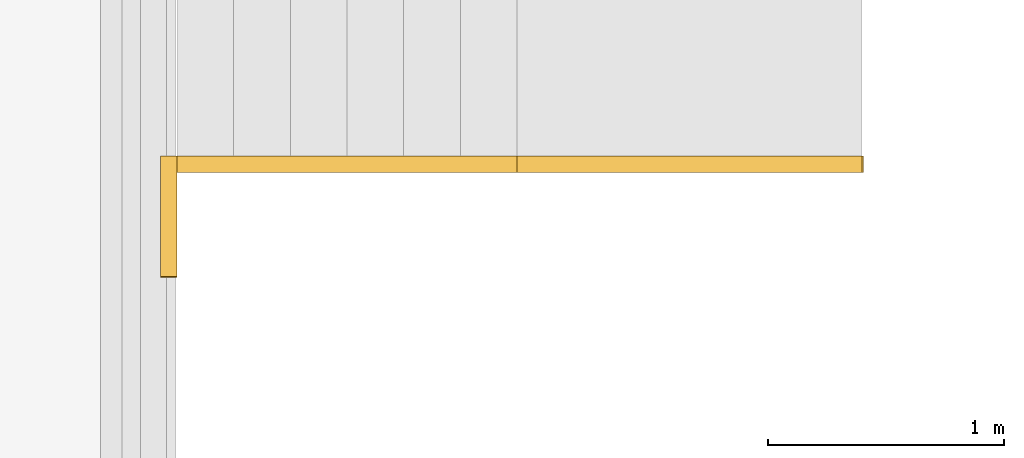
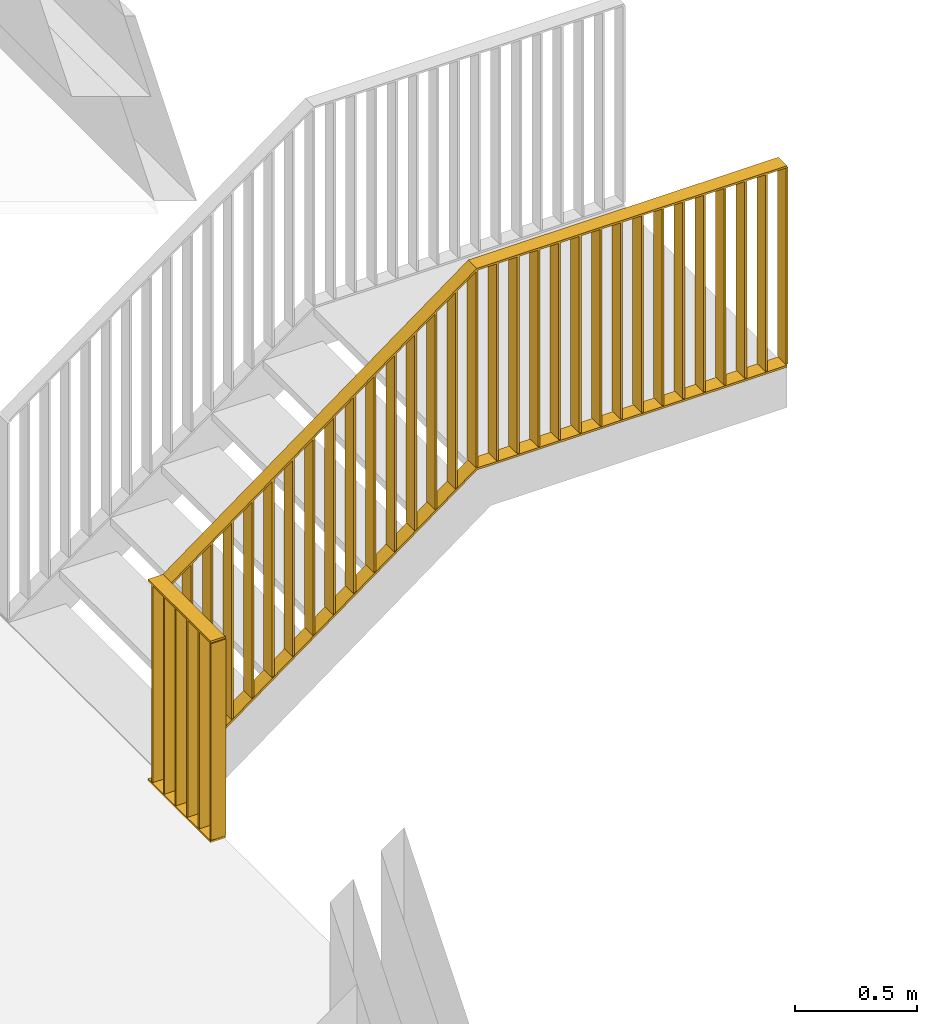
# One storey, part 47 of 54: 1 railing.
"""IFC2X3 building model written with IfcOpenShell, lengths in millimetres."""

import ifcopenshell
import ifcopenshell.guid

model = None  # the IFC model being written
_history = None  # IfcOwnerHistory: only IFC2X3 demands one
_inside = {}  # id of a spatial element -> (the spatial element, [elements in it])
_under = {}  # id of a project, library or spatial element -> (it, [spatial elements below it])
_declared = {}  # id of a project -> (the project, [libraries it declares])
_typed = {}  # id of a type object -> (the type object, [elements of that type])
_made_of = {}  # id of a material, layer set ... -> (it, [elements and type objects made of it])


def new_model(schema):
    """Start an empty IFC model of exactly this schema.

    Asked for "IFC4X3", IfcOpenShell would pick the latest addendum, in which some entities
    have other attributes; the version numbers below select the first issue.
    IFC2X3 requires an IfcOwnerHistory on every rooted entity: one is made here for all.
    """
    global model, _history
    if schema == "IFC4X3":
        model = ifcopenshell.file(schema_version=(4, 3, 0, 0))
    else:
        model = ifcopenshell.file(schema=schema)
    _inside.clear()
    _under.clear()
    _declared.clear()
    _typed.clear()
    _made_of.clear()
    _history = None
    if model.schema == "IFC2X3":
        org = make("IfcOrganization", Name="unknown")
        user = make(
            "IfcPersonAndOrganization",
            ThePerson=make("IfcPerson", FamilyName="unknown"),
            TheOrganization=org,
        )
        app = make(
            "IfcApplication",
            ApplicationDeveloper=org,
            Version="unknown",
            ApplicationFullName="unknown",
            ApplicationIdentifier="unknown",
        )
        _history = make(
            "IfcOwnerHistory",
            OwningUser=user,
            OwningApplication=app,
            ChangeAction="ADDED",
            CreationDate=0,
        )
    return model


def make(cls, **values):
    """One entity of the class cls with the attributes given. An attribute that is None is left unset."""
    return model.create_entity(
        cls, **{name: value for name, value in values.items() if value is not None}
    )


def entity(cls, *values):
    """Any entity or typed value of the class cls, its attributes in the order of the schema. None: left unset."""
    e = model.create_entity(cls)
    for i, value in enumerate(values):
        if value is not None:
            e[i] = value
    return e


def rooted(cls, **values):
    """An entity with a GlobalId (a new one), such as an element, a storey or a relation."""
    return make(cls, GlobalId=ifcopenshell.guid.new(), OwnerHistory=_history, **values)


def si_unit(unit_type, name, prefix=None):
    """IfcSIUnit, for example si_unit("LENGTHUNIT", "METRE", prefix="MILLI")."""
    return make("IfcSIUnit", UnitType=unit_type, Prefix=prefix, Name=name)


def converted_unit(unit_type, name, factor, base, dimensions=None, offset=None):
    """IfcConversionBasedUnit, such as the inch: factor (a typed value) times the base unit."""
    return make(
        "IfcConversionBasedUnit"
        if offset is None
        else "IfcConversionBasedUnitWithOffset",
        ConversionOffset=offset,
        Dimensions=None
        if dimensions is None
        else entity("IfcDimensionalExponents", *dimensions),
        UnitType=unit_type,
        Name=name,
        ConversionFactor=make(
            "IfcMeasureWithUnit", ValueComponent=factor, UnitComponent=base
        ),
    )


def derived_unit(unit_type, elements):
    """IfcDerivedUnit: a product of units, each with its exponent."""
    return make(
        "IfcDerivedUnit",
        Elements=[
            make("IfcDerivedUnitElement", Unit=unit, Exponent=power)
            for unit, power in elements
        ],
        UnitType=unit_type,
    )


def money_unit(currency):
    """IfcMonetaryUnit."""
    return make("IfcMonetaryUnit", Currency=currency)


def assignment(units):
    """IfcUnitAssignment: the units of a project."""
    return None if units is None else make("IfcUnitAssignment", Units=units)


def point(xyz):
    """IfcCartesianPoint."""
    return None if xyz is None else make("IfcCartesianPoint", Coordinates=xyz)


def direction(xyz):
    """IfcDirection."""
    return None if xyz is None else make("IfcDirection", DirectionRatios=xyz)


def frame(location, z_axis=None, x_axis=None):
    """IfcAxis2Placement3D, a coordinate frame: its origin and axes. An axis left out is left unset."""
    return make(
        "IfcAxis2Placement3D",
        Location=point(location),
        Axis=direction(z_axis),
        RefDirection=direction(x_axis),
    )


def origin_with_axes():
    """The frame at (0, 0, 0) with the z axis (0, 0, 1) and the x axis (1, 0, 0) written out."""
    return frame((0.0, 0.0, 0.0), z_axis=(0.0, 0.0, 1.0), x_axis=(1.0, 0.0, 0.0))


def place(relative_to, where):
    """IfcLocalPlacement: puts the frame where relative to a parent placement (None: the world)."""
    return make(
        "IfcLocalPlacement", PlacementRelTo=relative_to, RelativePlacement=where
    )


def context(
    kind, dimensions, precision=None, world=None, true_north=None, identifier=None
):
    """IfcGeometricRepresentationContext, for example the 3D "Model" context."""
    return make(
        "IfcGeometricRepresentationContext",
        ContextIdentifier=identifier,
        ContextType=kind,
        CoordinateSpaceDimension=dimensions,
        Precision=precision,
        WorldCoordinateSystem=world,
        TrueNorth=true_north,
    )


def subcontext(parent, identifier, kind, view, scale=None):
    """IfcGeometricRepresentationSubContext, for example "Body" below "Model"."""
    return make(
        "IfcGeometricRepresentationSubContext",
        ContextIdentifier=identifier,
        ContextType=kind,
        ParentContext=parent,
        TargetScale=scale,
        TargetView=view,
    )


def project(units=None, contexts=None):
    """IfcProject with its units and contexts."""
    return rooted(
        "IfcProject",
        Name="project",
        RepresentationContexts=contexts,
        UnitsInContext=assignment(units),
    )


def spatial(cls, under=None, at=None, **own):
    """A site, building, storey or space (cls), placed at a placement, below another one or the project."""
    s = rooted(cls, ObjectPlacement=at, **own)
    if under is not None:
        _under.setdefault(under.id(), (under, []))[1].append(s)
    return s


def faces_of(points, faces, orient=None, outer=None):
    """IfcFace entities. A face is a list of loops; a loop is a list of indices into points, from 0.

    orient and outer hold one flag for each loop. By default every Orientation is true, the
    first loop of a face is its IfcFaceOuterBound and the others are IfcFaceBound.
    """
    made = []
    for i, loops in enumerate(faces):
        bounds = []
        for j, loop in enumerate(loops):
            is_outer = j == 0 if outer is None else outer[i][j]
            bounds.append(
                make(
                    "IfcFaceOuterBound" if is_outer else "IfcFaceBound",
                    Bound=make("IfcPolyLoop", Polygon=[points[k] for k in loop]),
                    Orientation=True if orient is None else orient[i][j],
                )
            )
        made.append(make("IfcFace", Bounds=bounds))
    return made


def faceted_brep(points, faces, orient=None, outer=None, voids=None):
    """IfcFacetedBrep: a solid bounded by flat faces; with voids (closed shells), ...WithVoids."""
    shared = [point(p) for p in points]
    hull = make("IfcClosedShell", CfsFaces=faces_of(shared, faces, orient, outer))
    if voids is None:
        return make("IfcFacetedBrep", Outer=hull)
    return make(
        "IfcFacetedBrepWithVoids",
        Outer=hull,
        Voids=[
            make(cls, CfsFaces=faces_of(shared, fs, o, b)) for cls, fs, o, b in voids
        ],
    )


def shape(context_of_items, identifier, shape_type, items):
    """IfcShapeRepresentation: the items that make up one representation, for example the "Body"."""
    return make(
        "IfcShapeRepresentation",
        ContextOfItems=context_of_items,
        RepresentationIdentifier=identifier,
        RepresentationType=shape_type,
        Items=items,
    )


def material(Name=None, Category=None):
    """IfcMaterial."""
    return make("IfcMaterial", Name=Name, Category=Category)


def material_list(materials):
    """IfcMaterialList."""
    return make("IfcMaterialList", Materials=materials)


def made_of(thing, what):
    """Note that an element or type object is made of a material, layer set ...; save() writes the relation."""
    if what is not None:
        _made_of.setdefault(what.id(), (what, []))[1].append(thing)
    return thing


def type_object(cls, material=None, **own):
    """A type object (cls), such as IfcWallType, which elements share."""
    return made_of(rooted(cls, **own), material)


def element(
    cls,
    number,
    at=None,
    inside=None,
    cuts=None,
    type_object=None,
    material=None,
    context=None,
    identifier="Body",
    shape_type=None,
    held_by="IfcProductDefinitionShape",
    body=None,
    shapes=None,
    **own,
):
    """One element of the class cls, such as IfcWall. Its Tag is "e" and its number.

    at: its placement. inside: the storey or other place that contains it. cuts: it is an
    opening in that element (IfcRelVoidsElement). A single representation is given by context,
    identifier, shape_type and body (its items); several are given by shapes. held_by: the class
    of the entity that holds the representations. save() writes the other relations.
    """
    e = rooted(cls, Tag="e%d" % number, ObjectPlacement=at, **own)
    if body is not None:
        shapes = [shape(context, identifier, shape_type, body)]
    if shapes is not None:
        e.Representation = make(held_by, Representations=shapes)
    if inside is not None:
        _inside.setdefault(inside.id(), (inside, []))[1].append(e)
    if cuts is not None:
        rooted(
            "IfcRelVoidsElement", RelatingBuildingElement=cuts, RelatedOpeningElement=e
        )
    if type_object is not None:
        _typed.setdefault(type_object.id(), (type_object, []))[1].append(e)
    return made_of(e, material)


def aggregate(whole, parts):
    """IfcRelAggregates: a whole, such as a stair, and the parts it consists of."""
    return rooted("IfcRelAggregates", RelatingObject=whole, RelatedObjects=parts)


def save(model, path):
    """Write the relations noted so far, then the file.

    IfcRelAggregates (storeys below a building ...), IfcRelContainedInSpatialStructure (elements
    in a storey), IfcRelDefinesByType, IfcRelAssociatesMaterial and IfcRelDeclares: one each for
    every whole, place, type object, material and project.
    """
    for whole, parts in _under.values():
        aggregate(whole, parts)
    for where, things in _inside.values():
        rooted(
            "IfcRelContainedInSpatialStructure",
            RelatedElements=things,
            RelatingStructure=where,
        )
    for kind, things in _typed.values():
        rooted("IfcRelDefinesByType", RelatedObjects=things, RelatingType=kind)
    for what, things in _made_of.values():
        rooted("IfcRelAssociatesMaterial", RelatedObjects=things, RelatingMaterial=what)
    for by, libraries in _declared.values():
        rooted("IfcRelDeclares", RelatingContext=by, RelatedDefinitions=libraries)
    model.write(path)


model = new_model("IFC2X3")

# Units and contexts
model_context = context("Model", 3, precision=0.01, world=origin_with_axes(), true_north=direction((0.0, 1.0)))
body_context = subcontext(model_context, "Body", "Model", "MODEL_VIEW")
ifc_project = project(units=[si_unit("LENGTHUNIT", "METRE", prefix="MILLI"), si_unit("AREAUNIT", "SQUARE_METRE"), si_unit("VOLUMEUNIT", "CUBIC_METRE"), converted_unit("PLANEANGLEUNIT", "DEGREE", entity("IfcPlaneAngleMeasure", 0.0174532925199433), si_unit("PLANEANGLEUNIT", "RADIAN"), dimensions=[0, 0, 0, 0, 0, 0, 0]), money_unit("EUR"), converted_unit("TIMEUNIT", "Year", entity("IfcTimeMeasure", 31557600.0), si_unit("TIMEUNIT", "SECOND"), dimensions=[0, 0, 1, 0, 0, 0, 0]), si_unit("MASSUNIT", "GRAM", prefix="KILO"), si_unit("THERMODYNAMICTEMPERATUREUNIT", "DEGREE_CELSIUS"), si_unit("LUMINOUSINTENSITYUNIT", "LUMEN"), si_unit("ENERGYUNIT", "JOULE", prefix="MEGA"), derived_unit("THERMALCONDUCTANCEUNIT", [(si_unit("POWERUNIT", "WATT"), 1), (si_unit("LENGTHUNIT", "METRE"), -1), (si_unit("THERMODYNAMICTEMPERATUREUNIT", "KELVIN"), -1)]), derived_unit("SPECIFICHEATCAPACITYUNIT", [(si_unit("ENERGYUNIT", "JOULE"), 1), (si_unit("MASSUNIT", "GRAM", prefix="KILO"), -1), (si_unit("THERMODYNAMICTEMPERATUREUNIT", "KELVIN"), -1)]), derived_unit("MASSDENSITYUNIT", [(si_unit("MASSUNIT", "GRAM", prefix="KILO"), 1), (si_unit("VOLUMEUNIT", "CUBIC_METRE"), -1)])], contexts=[model_context])

# Site, building, storey
site_placement = place(None, origin_with_axes())
site = spatial("IfcSite", under=ifc_project, at=site_placement, Name="<site naam>", CompositionType="ELEMENT")
building_placement = place(site_placement, origin_with_axes())
building = spatial("IfcBuilding", under=site, at=building_placement, Name="<Naam gebouw>", CompositionType="ELEMENT")
storey_placement = place(building_placement, frame((0.0, 0.0, 8500.0), z_axis=(0.0, 0.0, 1.0), x_axis=(1.0, 0.0, 0.0)))
storey = spatial("IfcBuildingStorey", under=building, at=storey_placement, Name="02 2e verdieping", CompositionType="ELEMENT", Elevation=8500.0)

# Railing
ifc_material = material(Name="staal balustrade")
ifc_material_list = material_list([ifc_material, ifc_material, ifc_material, ifc_material, ifc_material, ifc_material, ifc_material, ifc_material, ifc_material, ifc_material, ifc_material, ifc_material, ifc_material, ifc_material, ifc_material, ifc_material, ifc_material, ifc_material, ifc_material, ifc_material, ifc_material, ifc_material, ifc_material, ifc_material, ifc_material, ifc_material, ifc_material, ifc_material, ifc_material, ifc_material, ifc_material, ifc_material, ifc_material, ifc_material, ifc_material, ifc_material, ifc_material, ifc_material, ifc_material, ifc_material, ifc_material, ifc_material, ifc_material, ifc_material, ifc_material])
railing_type = type_object("IfcRailingType", Name="Railing Type", PredefinedType="NOTDEFINED")
railing_placement = place(storey_placement, frame((52215.80885018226, 10255.00000000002, 0.0), z_axis=(0.0, 0.0, 1.0), x_axis=(1.0, 0.0, 0.0)))
element("IfcRailing", 1, at=railing_placement, inside=storey, type_object=railing_type, material=ifc_material_list, Name="34_Reling_", PredefinedType="NOTDEFINED", context=body_context, shape_type="Brep", body=[
    faceted_brep([(-35.62091710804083, -504.999999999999, 15.00000000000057), (-105.620917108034, -504.999999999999, 15.00000000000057), (-105.620917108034, -504.999999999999, 994.9999999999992), (-35.62091710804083, -504.999999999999, 994.9999999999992), (-35.62091710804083, -515.0000000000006, 15.00000000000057), (-105.620917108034, -515.0000000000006, 15.00000000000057), (-105.620917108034, -515.0000000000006, 994.9999999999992), (-35.62091710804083, -515.0000000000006, 994.9999999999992)], [[[0, 1, 2, 3]], [[0, 4, 5, 1]], [[1, 5, 6, 2]], [[3, 2, 6, 7]], [[4, 0, 3, 7]], [[5, 4, 7, 6]]]),
    faceted_brep([(-35.62091710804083, -29.99999999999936, 15.00000000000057), (-105.620917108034, -29.99999999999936, 15.00000000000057), (-105.620917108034, -29.99999999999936, 994.9999999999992), (-35.62091710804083, -29.99999999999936, 994.9999999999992), (-35.62091710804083, -40.00000000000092, 15.00000000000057), (-105.620917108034, -40.00000000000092, 15.00000000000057), (-105.620917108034, -40.00000000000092, 994.9999999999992), (-35.62091710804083, -40.00000000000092, 994.9999999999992)], [[[0, 1, 2, 3]], [[0, 4, 5, 1]], [[1, 5, 6, 2]], [[3, 2, 6, 7]], [[4, 0, 3, 7]], [[5, 4, 7, 6]]]),
    faceted_brep([(-30.62091710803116, -69.99999999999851, 15.00000000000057), (-30.62091710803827, 0.0, 15.00000000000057), (-30.62091710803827, 0.0, 994.9999999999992), (-30.62091710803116, -69.99999999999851, 994.9999999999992), (-40.62091710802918, -69.99999999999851, 15.00000000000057), (-40.62091710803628, 0.0, 15.00000000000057), (-40.62091710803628, 0.0, 994.9999999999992), (-40.62091710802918, -69.99999999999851, 994.9999999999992)], [[[0, 1, 2, 3]], [[0, 4, 5, 1]], [[1, 5, 6, 2]], [[3, 2, 6, 7]], [[4, 0, 3, 7]], [[5, 4, 7, 6]]]),
    faceted_brep([(1409.379082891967, -70.00000000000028, 1078.000000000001), (1409.379082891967, 0.0, 1078.000000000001), (1409.379082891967, 0.0, 2058.0), (1409.379082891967, -70.00000000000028, 2058.0), (1399.379082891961, -70.00000000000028, 1078.000000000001), (1399.379082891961, 0.0, 1078.000000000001), (1399.379082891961, 0.0, 2058.0), (1399.379082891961, -70.00000000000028, 2058.0)], [[[0, 1, 2, 3]], [[0, 4, 5, 1]], [[1, 5, 6, 2]], [[3, 2, 6, 7]], [[4, 0, 3, 7]], [[5, 4, 7, 6]]]),
    faceted_brep([(2872.415070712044, -69.99999999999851, 1078.000000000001), (2872.415070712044, 0.0, 1078.000000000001), (2872.415070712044, 0.0, 2058.0), (2872.415070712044, -69.99999999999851, 2058.0), (2862.415070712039, -69.99999999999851, 1078.000000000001), (2862.415070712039, 0.0, 1078.000000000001), (2862.415070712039, 0.0, 2058.0), (2862.415070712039, -69.99999999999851, 2058.0)], [[[0, 1, 2, 3]], [[0, 4, 5, 1]], [[1, 5, 6, 2]], [[3, 2, 6, 7]], [[4, 0, 3, 7]], [[5, 4, 7, 6]]]),
    faceted_brep([(-35.62091710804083, -509.9999999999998, 1004.999999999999), (-35.62091710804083, -509.9999999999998, 994.9999999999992), (-35.62091710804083, -69.99999999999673, 994.9999999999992), (-35.62091710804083, -69.99999999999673, 1004.999999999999), (-105.620917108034, -509.9999999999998, 1004.999999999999), (-105.620917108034, -509.9999999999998, 994.9999999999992), (-105.620917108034, 0.0, 994.9999999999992), (-105.620917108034, 0.0, 1004.999999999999)], [[[0, 1, 2, 3]], [[0, 4, 5, 1]], [[1, 5, 6, 2]], [[3, 2, 6, 7]], [[4, 0, 3, 7]], [[5, 4, 7, 6]]]),
    faceted_brep([(-35.62091710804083, -509.9999999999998, 10.00000000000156), (-35.62091710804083, -509.9999999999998, 0.0), (-35.62091710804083, -69.99999999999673, 0.0), (-35.62091710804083, -69.99999999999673, 10.00000000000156), (-105.620917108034, -509.9999999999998, 10.00000000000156), (-105.620917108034, -509.9999999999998, 0.0), (-105.620917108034, 0.0, 0.0), (-105.620917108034, 0.0, 10.00000000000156)], [[[0, 1, 2, 3]], [[0, 4, 5, 1]], [[1, 5, 6, 2]], [[3, 2, 6, 7]], [[4, 0, 3, 7]], [[5, 4, 7, 6]]]),
    faceted_brep([(-35.62091710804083, -409.9999999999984, 15.00000000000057), (-105.620917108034, -409.9999999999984, 15.00000000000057), (-105.620917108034, -409.9999999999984, 995.000000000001), (-35.62091710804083, -409.9999999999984, 995.000000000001), (-35.62091710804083, -419.9999999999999, 15.00000000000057), (-105.620917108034, -419.9999999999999, 15.00000000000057), (-105.620917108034, -419.9999999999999, 995.000000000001), (-35.62091710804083, -419.9999999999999, 995.000000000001)], [[[0, 1, 2, 3]], [[0, 4, 5, 1]], [[1, 5, 6, 2]], [[3, 2, 6, 7]], [[4, 0, 3, 7]], [[5, 4, 7, 6]]]),
    faceted_brep([(-35.62091710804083, -314.9999999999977, 15.00000000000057), (-105.620917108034, -314.9999999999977, 15.00000000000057), (-105.620917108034, -314.9999999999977, 995.000000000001), (-35.62091710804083, -314.9999999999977, 995.000000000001), (-35.62091710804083, -324.9999999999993, 15.00000000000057), (-105.620917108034, -324.9999999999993, 15.00000000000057), (-105.620917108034, -324.9999999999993, 995.000000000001), (-35.62091710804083, -324.9999999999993, 995.000000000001)], [[[0, 1, 2, 3]], [[0, 4, 5, 1]], [[1, 5, 6, 2]], [[3, 2, 6, 7]], [[4, 0, 3, 7]], [[5, 4, 7, 6]]]),
    faceted_brep([(-35.62091710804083, -219.9999999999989, 15.00000000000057), (-105.620917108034, -219.9999999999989, 15.00000000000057), (-105.620917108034, -219.9999999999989, 995.000000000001), (-35.62091710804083, -219.9999999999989, 995.000000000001), (-35.62091710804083, -230.0000000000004, 15.00000000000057), (-105.620917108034, -230.0000000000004, 15.00000000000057), (-105.620917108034, -230.0000000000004, 995.000000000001), (-35.62091710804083, -230.0000000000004, 995.000000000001)], [[[0, 1, 2, 3]], [[0, 4, 5, 1]], [[1, 5, 6, 2]], [[3, 2, 6, 7]], [[4, 0, 3, 7]], [[5, 4, 7, 6]]]),
    faceted_brep([(-35.62091710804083, -124.9999999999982, 15.00000000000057), (-105.620917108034, -124.9999999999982, 15.00000000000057), (-105.620917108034, -124.9999999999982, 995.000000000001), (-35.62091710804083, -124.9999999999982, 995.000000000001), (-35.62091710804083, -134.9999999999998, 15.00000000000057), (-105.620917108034, -134.9999999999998, 15.00000000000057), (-105.620917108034, -134.9999999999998, 995.000000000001), (-35.62091710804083, -134.9999999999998, 995.000000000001)], [[[0, 1, 2, 3]], [[0, 4, 5, 1]], [[1, 5, 6, 2]], [[3, 2, 6, 7]], [[4, 0, 3, 7]], [[5, 4, 7, 6]]]),
    faceted_brep([(-105.620917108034, 0.0, 1004.999999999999), (-35.62091710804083, -69.99999999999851, 1004.999999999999), (-35.62091710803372, 0.0, 1004.999999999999), (-105.620917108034, 0.0, 994.9999999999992), (-35.62091710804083, -69.99999999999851, 994.9999999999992), (-32.3297442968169, -69.99999999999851, 994.9999999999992), (-32.329744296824, 0.0, 994.9999999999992)], [[[0, 1, 2]], [[3, 4, 1, 0]], [[1, 5, 6, 2]], [[3, 0, 2, 6]], [[4, 3, 6, 5]], [[1, 4, 5]]]),
    faceted_brep([(-35.62091710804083, -69.99999999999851, 0.0), (-105.620917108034, 0.0, 0.0), (-35.62091710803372, 0.0, 0.0), (-35.62091710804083, -69.99999999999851, 10.00000000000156), (-105.620917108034, 0.0, 10.00000000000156), (-35.62091710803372, 0.0, 10.00000000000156)], [[[0, 1, 2]], [[1, 0, 3, 4]], [[1, 4, 5, 2]], [[3, 0, 2, 5]], [[4, 3, 5]]]),
    faceted_brep([(-35.62091710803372, -69.99999999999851, 1004.999999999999), (-32.3297442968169, -69.99999999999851, 994.9999999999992), (1407.670255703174, -70.00000000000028, 2058.000000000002), (1404.379082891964, -70.00000000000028, 2068.000000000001), (-35.62091710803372, 0.0, 1004.999999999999), (-32.329744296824, 0.0, 994.9999999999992), (1407.670255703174, 0.0, 2058.000000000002), (1404.379082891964, 0.0, 2068.000000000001)], [[[0, 1, 2, 3]], [[0, 4, 5, 1]], [[1, 5, 6, 2]], [[3, 2, 6, 7]], [[4, 0, 3, 7]], [[5, 4, 7, 6]]]),
    faceted_brep([(-35.62091710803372, -69.99999999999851, 11.21476274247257), (-35.62091710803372, -69.99999999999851, -1.214762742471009), (1404.379082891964, -70.00000000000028, 1061.78523725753), (1404.379082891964, -70.00000000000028, 1074.214762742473), (-35.62091710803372, 0.0, 11.21476274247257), (-35.62091710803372, 0.0, -1.214762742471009), (1404.379082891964, 0.0, 1061.78523725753), (1404.379082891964, 0.0, 1074.214762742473)], [[[0, 1, 2, 3]], [[0, 4, 5, 1]], [[1, 5, 6, 2]], [[3, 2, 6, 7]], [[4, 0, 3, 7]], [[5, 4, 7, 6]]]),
    faceted_brep([(65.37908289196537, -69.99999999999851, 89.55763888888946), (65.37908289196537, 0.0, 89.55763888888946), (65.37908289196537, 0.0, 1069.557638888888), (65.37908289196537, -69.99999999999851, 1069.557638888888), (55.37908289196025, -69.99999999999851, 82.17569444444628), (55.37908289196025, 0.0, 82.17569444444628), (55.37908289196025, 0.0, 1062.175694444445), (55.37908289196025, -69.99999999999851, 1062.175694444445)], [[[0, 1, 2, 3]], [[0, 4, 5, 1]], [[1, 5, 6, 2]], [[3, 2, 6, 7]], [[4, 0, 3, 7]], [[5, 4, 7, 6]]]),
    faceted_brep([(161.379082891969, -69.99999999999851, 160.424305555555), (161.379082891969, 0.0, 160.424305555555), (161.379082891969, 0.0, 1140.424305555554), (161.379082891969, -69.99999999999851, 1140.424305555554), (151.3790828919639, -69.99999999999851, 153.0423611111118), (151.3790828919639, 0.0, 153.0423611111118), (151.3790828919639, 0.0, 1133.04236111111), (151.3790828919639, -69.99999999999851, 1133.04236111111)], [[[0, 1, 2, 3]], [[0, 4, 5, 1]], [[1, 5, 6, 2]], [[3, 2, 6, 7]], [[4, 0, 3, 7]], [[5, 4, 7, 6]]]),
    faceted_brep([(257.3790828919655, -69.99999999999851, 231.2909722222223), (257.3790828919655, 0.0, 231.2909722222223), (257.3790828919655, 0.0, 1211.290972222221), (257.3790828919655, -69.99999999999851, 1211.290972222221), (247.3790828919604, -69.99999999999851, 223.9090277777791), (247.3790828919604, 0.0, 223.9090277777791), (247.3790828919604, 0.0, 1203.909027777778), (247.3790828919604, -69.99999999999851, 1203.909027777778)], [[[0, 1, 2, 3]], [[0, 4, 5, 1]], [[1, 5, 6, 2]], [[3, 2, 6, 7]], [[4, 0, 3, 7]], [[5, 4, 7, 6]]]),
    faceted_brep([(353.3790828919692, -69.99999999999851, 302.1576388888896), (353.3790828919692, 0.0, 302.1576388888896), (353.3790828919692, 0.0, 1282.157638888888), (353.3790828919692, -69.99999999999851, 1282.157638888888), (343.3790828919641, -69.99999999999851, 294.7756944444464), (343.3790828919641, 0.0, 294.7756944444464), (343.3790828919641, 0.0, 1274.775694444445), (343.3790828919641, -69.99999999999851, 1274.775694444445)], [[[0, 1, 2, 3]], [[0, 4, 5, 1]], [[1, 5, 6, 2]], [[3, 2, 6, 7]], [[4, 0, 3, 7]], [[5, 4, 7, 6]]]),
    faceted_brep([(449.3790828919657, -69.99999999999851, 373.0243055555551), (449.3790828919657, 0.0, 373.0243055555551), (449.3790828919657, 0.0, 1353.024305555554), (449.3790828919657, -69.99999999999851, 1353.024305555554), (439.3790828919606, -69.99999999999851, 365.6423611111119), (439.3790828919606, 0.0, 365.6423611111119), (439.3790828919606, 0.0, 1345.642361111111), (439.3790828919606, -69.99999999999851, 1345.642361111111)], [[[0, 1, 2, 3]], [[0, 4, 5, 1]], [[1, 5, 6, 2]], [[3, 2, 6, 7]], [[4, 0, 3, 7]], [[5, 4, 7, 6]]]),
    faceted_brep([(545.3790828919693, -69.99999999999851, 443.8909722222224), (545.3790828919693, 0.0, 443.8909722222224), (545.3790828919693, 0.0, 1423.890972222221), (545.3790828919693, -69.99999999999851, 1423.890972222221), (535.3790828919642, -69.99999999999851, 436.5090277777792), (535.3790828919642, 0.0, 436.5090277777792), (535.3790828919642, 0.0, 1416.509027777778), (535.3790828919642, -69.99999999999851, 1416.509027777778)], [[[0, 1, 2, 3]], [[0, 4, 5, 1]], [[1, 5, 6, 2]], [[3, 2, 6, 7]], [[4, 0, 3, 7]], [[5, 4, 7, 6]]]),
    faceted_brep([(641.3790828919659, -69.99999999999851, 514.7576388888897), (641.3790828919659, 0.0, 514.7576388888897), (641.3790828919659, 0.0, 1494.757638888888), (641.3790828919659, -69.99999999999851, 1494.757638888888), (631.3790828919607, -69.99999999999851, 507.3756944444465), (631.3790828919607, 0.0, 507.3756944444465), (631.3790828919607, 0.0, 1487.375694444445), (631.3790828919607, -69.99999999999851, 1487.375694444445)], [[[0, 1, 2, 3]], [[0, 4, 5, 1]], [[1, 5, 6, 2]], [[3, 2, 6, 7]], [[4, 0, 3, 7]], [[5, 4, 7, 6]]]),
    faceted_brep([(737.3790828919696, -70.00000000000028, 585.6243055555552), (737.3790828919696, 0.0, 585.6243055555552), (737.3790828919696, 0.0, 1565.624305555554), (737.3790828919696, -70.00000000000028, 1565.624305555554), (727.3790828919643, -70.00000000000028, 578.242361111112), (727.3790828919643, 0.0, 578.242361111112), (727.3790828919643, 0.0, 1558.242361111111), (727.3790828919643, -70.00000000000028, 1558.242361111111)], [[[0, 1, 2, 3]], [[0, 4, 5, 1]], [[1, 5, 6, 2]], [[3, 2, 6, 7]], [[4, 0, 3, 7]], [[5, 4, 7, 6]]]),
    faceted_brep([(833.379082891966, -70.00000000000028, 656.4909722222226), (833.379082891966, 0.0, 656.4909722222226), (833.379082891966, 0.0, 1636.490972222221), (833.379082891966, -70.00000000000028, 1636.490972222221), (823.3790828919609, -70.00000000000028, 649.1090277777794), (823.3790828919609, 0.0, 649.1090277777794), (823.3790828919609, 0.0, 1629.109027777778), (823.3790828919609, -70.00000000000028, 1629.109027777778)], [[[0, 1, 2, 3]], [[0, 4, 5, 1]], [[1, 5, 6, 2]], [[3, 2, 6, 7]], [[4, 0, 3, 7]], [[5, 4, 7, 6]]]),
    faceted_brep([(929.3790828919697, -70.00000000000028, 727.3576388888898), (929.3790828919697, 0.0, 727.3576388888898), (929.3790828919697, 0.0, 1707.357638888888), (929.3790828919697, -70.00000000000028, 1707.357638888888), (919.3790828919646, -70.00000000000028, 719.9756944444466), (919.3790828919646, 0.0, 719.9756944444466), (919.3790828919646, 0.0, 1699.975694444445), (919.3790828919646, -70.00000000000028, 1699.975694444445)], [[[0, 1, 2, 3]], [[0, 4, 5, 1]], [[1, 5, 6, 2]], [[3, 2, 6, 7]], [[4, 0, 3, 7]], [[5, 4, 7, 6]]]),
    faceted_brep([(1025.379082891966, -70.00000000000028, 798.2243055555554), (1025.379082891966, 0.0, 798.2243055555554), (1025.379082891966, 0.0, 1778.224305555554), (1025.379082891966, -70.00000000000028, 1778.224305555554), (1015.379082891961, -70.00000000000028, 790.8423611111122), (1015.379082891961, 0.0, 790.8423611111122), (1015.379082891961, 0.0, 1770.842361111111), (1015.379082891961, -70.00000000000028, 1770.842361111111)], [[[0, 1, 2, 3]], [[0, 4, 5, 1]], [[1, 5, 6, 2]], [[3, 2, 6, 7]], [[4, 0, 3, 7]], [[5, 4, 7, 6]]]),
    faceted_brep([(1121.37908289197, -70.00000000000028, 869.0909722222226), (1121.37908289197, 0.0, 869.0909722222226), (1121.37908289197, 0.0, 1849.090972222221), (1121.37908289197, -70.00000000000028, 1849.090972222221), (1111.379082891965, -70.00000000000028, 861.7090277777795), (1111.379082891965, 0.0, 861.7090277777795), (1111.379082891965, 0.0, 1841.709027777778), (1111.379082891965, -70.00000000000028, 1841.709027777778)], [[[0, 1, 2, 3]], [[0, 4, 5, 1]], [[1, 5, 6, 2]], [[3, 2, 6, 7]], [[4, 0, 3, 7]], [[5, 4, 7, 6]]]),
    faceted_brep([(1217.379082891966, -70.00000000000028, 939.95763888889), (1217.379082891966, 0.0, 939.95763888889), (1217.379082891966, 0.0, 1919.957638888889), (1217.379082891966, -70.00000000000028, 1919.957638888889), (1207.379082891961, -70.00000000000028, 932.5756944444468), (1207.379082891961, 0.0, 932.5756944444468), (1207.379082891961, 0.0, 1912.575694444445), (1207.379082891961, -70.00000000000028, 1912.575694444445)], [[[0, 1, 2, 3]], [[0, 4, 5, 1]], [[1, 5, 6, 2]], [[3, 2, 6, 7]], [[4, 0, 3, 7]], [[5, 4, 7, 6]]]),
    faceted_brep([(1313.37908289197, -70.00000000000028, 1010.824305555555), (1313.37908289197, 0.0, 1010.824305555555), (1313.37908289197, 0.0, 1990.824305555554), (1313.37908289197, -70.00000000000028, 1990.824305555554), (1303.379082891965, -70.00000000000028, 1003.442361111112), (1303.379082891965, 0.0, 1003.442361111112), (1303.379082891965, 0.0, 1983.442361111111), (1303.379082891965, -70.00000000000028, 1983.442361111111)], [[[0, 1, 2, 3]], [[0, 4, 5, 1]], [[1, 5, 6, 2]], [[3, 2, 6, 7]], [[4, 0, 3, 7]], [[5, 4, 7, 6]]]),
    faceted_brep([(1404.379082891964, -70.00000000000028, 2068.000000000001), (1407.670255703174, -70.00000000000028, 2058.000000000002), (2867.415070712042, -69.99999999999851, 2058.000000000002), (2867.415070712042, -69.99999999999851, 2068.000000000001), (1404.379082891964, 0.0, 2068.000000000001), (1407.670255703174, 0.0, 2058.000000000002), (2867.415070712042, 0.0, 2058.000000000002), (2867.415070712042, 0.0, 2068.000000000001)], [[[0, 1, 2, 3]], [[0, 4, 5, 1]], [[1, 5, 6, 2]], [[3, 2, 6, 7]], [[4, 0, 3, 7]], [[5, 4, 7, 6]]]),
    faceted_brep([(1404.379082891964, -70.00000000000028, 1073.000000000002), (1404.379082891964, -70.00000000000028, 1063.000000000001), (2867.415070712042, -69.99999999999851, 1063.000000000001), (2867.415070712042, -69.99999999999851, 1073.000000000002), (1404.379082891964, 0.0, 1073.000000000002), (1404.379082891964, 0.0, 1063.000000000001), (2867.415070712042, 0.0, 1063.000000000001), (2867.415070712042, 0.0, 1073.000000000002)], [[[0, 1, 2, 3]], [[0, 4, 5, 1]], [[1, 5, 6, 2]], [[3, 2, 6, 7]], [[4, 0, 3, 7]], [[5, 4, 7, 6]]]),
    faceted_brep([(1506.914815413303, -70.00000000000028, 1078.000000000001), (1506.914815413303, 0.0, 1078.000000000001), (1506.914815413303, 0.0, 2058.000000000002), (1506.914815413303, -70.00000000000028, 2058.000000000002), (1496.914815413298, -70.00000000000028, 1078.000000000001), (1496.914815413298, 0.0, 1078.000000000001), (1496.914815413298, 0.0, 2058.000000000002), (1496.914815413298, -70.00000000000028, 2058.000000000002)], [[[0, 1, 2, 3]], [[0, 4, 5, 1]], [[1, 5, 6, 2]], [[3, 2, 6, 7]], [[4, 0, 3, 7]], [[5, 4, 7, 6]]]),
    faceted_brep([(1604.450547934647, -70.00000000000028, 1078.000000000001), (1604.450547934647, 0.0, 1078.000000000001), (1604.450547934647, 0.0, 2058.000000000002), (1604.450547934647, -70.00000000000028, 2058.000000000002), (1594.450547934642, -70.00000000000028, 1078.000000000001), (1594.450547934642, 0.0, 1078.000000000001), (1594.450547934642, 0.0, 2058.000000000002), (1594.450547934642, -70.00000000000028, 2058.000000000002)], [[[0, 1, 2, 3]], [[0, 4, 5, 1]], [[1, 5, 6, 2]], [[3, 2, 6, 7]], [[4, 0, 3, 7]], [[5, 4, 7, 6]]]),
    faceted_brep([(1701.986280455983, -70.00000000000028, 1078.000000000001), (1701.986280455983, 0.0, 1078.000000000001), (1701.986280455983, 0.0, 2058.000000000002), (1701.986280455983, -70.00000000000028, 2058.000000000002), (1691.986280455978, -70.00000000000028, 1078.000000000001), (1691.986280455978, 0.0, 1078.000000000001), (1691.986280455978, 0.0, 2058.000000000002), (1691.986280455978, -70.00000000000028, 2058.000000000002)], [[[0, 1, 2, 3]], [[0, 4, 5, 1]], [[1, 5, 6, 2]], [[3, 2, 6, 7]], [[4, 0, 3, 7]], [[5, 4, 7, 6]]]),
    faceted_brep([(1799.52201297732, -70.00000000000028, 1078.000000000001), (1799.52201297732, 0.0, 1078.000000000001), (1799.52201297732, 0.0, 2058.000000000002), (1799.52201297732, -70.00000000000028, 2058.000000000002), (1789.522012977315, -70.00000000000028, 1078.000000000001), (1789.522012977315, 0.0, 1078.000000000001), (1789.522012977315, 0.0, 2058.000000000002), (1789.522012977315, -70.00000000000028, 2058.000000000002)], [[[0, 1, 2, 3]], [[0, 4, 5, 1]], [[1, 5, 6, 2]], [[3, 2, 6, 7]], [[4, 0, 3, 7]], [[5, 4, 7, 6]]]),
    faceted_brep([(1897.057745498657, -70.00000000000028, 1078.000000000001), (1897.057745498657, 0.0, 1078.000000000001), (1897.057745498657, 0.0, 2058.000000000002), (1897.057745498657, -70.00000000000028, 2058.000000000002), (1887.057745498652, -70.00000000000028, 1078.000000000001), (1887.057745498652, 0.0, 1078.000000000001), (1887.057745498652, 0.0, 2058.000000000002), (1887.057745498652, -70.00000000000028, 2058.000000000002)], [[[0, 1, 2, 3]], [[0, 4, 5, 1]], [[1, 5, 6, 2]], [[3, 2, 6, 7]], [[4, 0, 3, 7]], [[5, 4, 7, 6]]]),
    faceted_brep([(1994.59347802, -70.00000000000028, 1078.000000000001), (1994.59347802, 0.0, 1078.000000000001), (1994.59347802, 0.0, 2058.000000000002), (1994.59347802, -70.00000000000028, 2058.000000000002), (1984.593478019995, -70.00000000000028, 1078.000000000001), (1984.593478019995, 0.0, 1078.000000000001), (1984.593478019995, 0.0, 2058.000000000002), (1984.593478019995, -70.00000000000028, 2058.000000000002)], [[[0, 1, 2, 3]], [[0, 4, 5, 1]], [[1, 5, 6, 2]], [[3, 2, 6, 7]], [[4, 0, 3, 7]], [[5, 4, 7, 6]]]),
    faceted_brep([(2092.129210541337, -70.00000000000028, 1078.000000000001), (2092.129210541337, 0.0, 1078.000000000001), (2092.129210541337, 0.0, 2058.000000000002), (2092.129210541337, -70.00000000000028, 2058.000000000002), (2082.129210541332, -70.00000000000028, 1078.000000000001), (2082.129210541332, 0.0, 1078.000000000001), (2082.129210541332, 0.0, 2058.000000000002), (2082.129210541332, -70.00000000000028, 2058.000000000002)], [[[0, 1, 2, 3]], [[0, 4, 5, 1]], [[1, 5, 6, 2]], [[3, 2, 6, 7]], [[4, 0, 3, 7]], [[5, 4, 7, 6]]]),
    faceted_brep([(2189.664943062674, -69.99999999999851, 1078.000000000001), (2189.664943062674, 0.0, 1078.000000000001), (2189.664943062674, 0.0, 2058.000000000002), (2189.664943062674, -69.99999999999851, 2058.000000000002), (2179.664943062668, -69.99999999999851, 1078.000000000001), (2179.664943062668, 0.0, 1078.000000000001), (2179.664943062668, 0.0, 2058.000000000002), (2179.664943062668, -69.99999999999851, 2058.000000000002)], [[[0, 1, 2, 3]], [[0, 4, 5, 1]], [[1, 5, 6, 2]], [[3, 2, 6, 7]], [[4, 0, 3, 7]], [[5, 4, 7, 6]]]),
    faceted_brep([(2287.20067558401, -69.99999999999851, 1078.000000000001), (2287.20067558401, 0.0, 1078.000000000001), (2287.20067558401, 0.0, 2058.000000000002), (2287.20067558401, -69.99999999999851, 2058.000000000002), (2277.200675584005, -69.99999999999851, 1078.000000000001), (2277.200675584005, 0.0, 1078.000000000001), (2277.200675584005, 0.0, 2058.000000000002), (2277.200675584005, -69.99999999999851, 2058.000000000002)], [[[0, 1, 2, 3]], [[0, 4, 5, 1]], [[1, 5, 6, 2]], [[3, 2, 6, 7]], [[4, 0, 3, 7]], [[5, 4, 7, 6]]]),
    faceted_brep([(2384.736408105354, -69.99999999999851, 1078.000000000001), (2384.736408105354, 0.0, 1078.000000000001), (2384.736408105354, 0.0, 2058.000000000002), (2384.736408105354, -69.99999999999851, 2058.000000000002), (2374.736408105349, -69.99999999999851, 1078.000000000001), (2374.736408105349, 0.0, 1078.000000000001), (2374.736408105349, 0.0, 2058.000000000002), (2374.736408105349, -69.99999999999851, 2058.000000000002)], [[[0, 1, 2, 3]], [[0, 4, 5, 1]], [[1, 5, 6, 2]], [[3, 2, 6, 7]], [[4, 0, 3, 7]], [[5, 4, 7, 6]]]),
    faceted_brep([(2482.272140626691, -69.99999999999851, 1078.000000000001), (2482.272140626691, 0.0, 1078.000000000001), (2482.272140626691, 0.0, 2058.000000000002), (2482.272140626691, -69.99999999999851, 2058.000000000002), (2472.272140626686, -69.99999999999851, 1078.000000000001), (2472.272140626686, 0.0, 1078.000000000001), (2472.272140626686, 0.0, 2058.000000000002), (2472.272140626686, -69.99999999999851, 2058.000000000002)], [[[0, 1, 2, 3]], [[0, 4, 5, 1]], [[1, 5, 6, 2]], [[3, 2, 6, 7]], [[4, 0, 3, 7]], [[5, 4, 7, 6]]]),
    faceted_brep([(2579.807873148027, -69.99999999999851, 1078.000000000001), (2579.807873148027, 0.0, 1078.000000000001), (2579.807873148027, 0.0, 2058.000000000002), (2579.807873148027, -69.99999999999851, 2058.000000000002), (2569.807873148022, -69.99999999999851, 1078.000000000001), (2569.807873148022, 0.0, 1078.000000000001), (2569.807873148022, 0.0, 2058.000000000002), (2569.807873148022, -69.99999999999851, 2058.000000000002)], [[[0, 1, 2, 3]], [[0, 4, 5, 1]], [[1, 5, 6, 2]], [[3, 2, 6, 7]], [[4, 0, 3, 7]], [[5, 4, 7, 6]]]),
    faceted_brep([(2677.343605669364, -69.99999999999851, 1078.000000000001), (2677.343605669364, 0.0, 1078.000000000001), (2677.343605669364, 0.0, 2058.000000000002), (2677.343605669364, -69.99999999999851, 2058.000000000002), (2667.343605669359, -69.99999999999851, 1078.000000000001), (2667.343605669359, 0.0, 1078.000000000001), (2667.343605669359, 0.0, 2058.000000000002), (2667.343605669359, -69.99999999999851, 2058.000000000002)], [[[0, 1, 2, 3]], [[0, 4, 5, 1]], [[1, 5, 6, 2]], [[3, 2, 6, 7]], [[4, 0, 3, 7]], [[5, 4, 7, 6]]]),
    faceted_brep([(2774.879338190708, -69.99999999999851, 1078.000000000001), (2774.879338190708, 0.0, 1078.000000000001), (2774.879338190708, 0.0, 2058.000000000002), (2774.879338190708, -69.99999999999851, 2058.000000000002), (2764.879338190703, -69.99999999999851, 1078.000000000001), (2764.879338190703, 0.0, 1078.000000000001), (2764.879338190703, 0.0, 2058.000000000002), (2764.879338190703, -69.99999999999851, 2058.000000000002)], [[[0, 1, 2, 3]], [[0, 4, 5, 1]], [[1, 5, 6, 2]], [[3, 2, 6, 7]], [[4, 0, 3, 7]], [[5, 4, 7, 6]]]),
])

save(model, "model.ifc")
